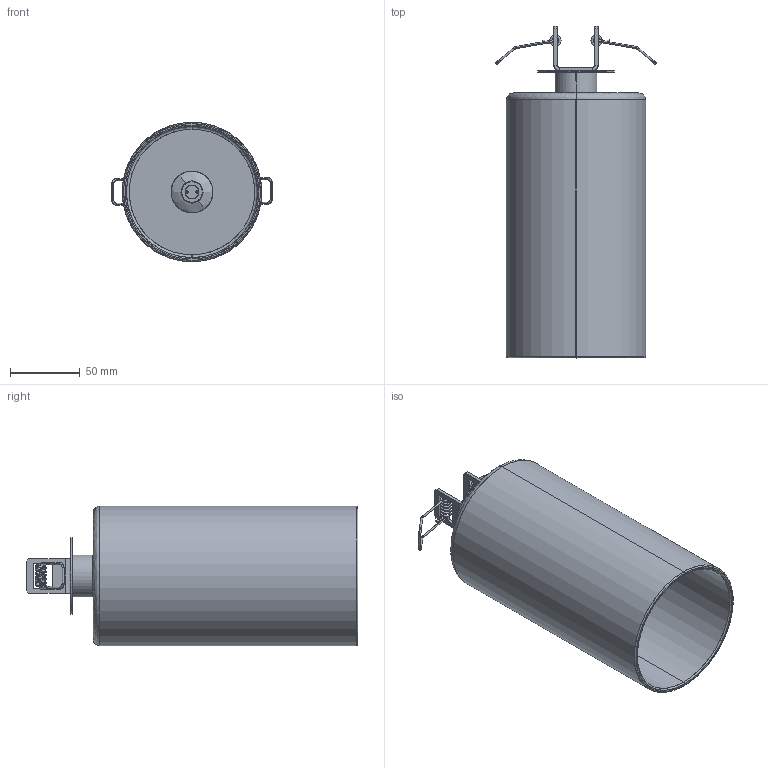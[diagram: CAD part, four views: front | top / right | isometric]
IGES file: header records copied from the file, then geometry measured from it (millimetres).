
Start section: SolidWorks IGES file using analytic representation for surfaces
Global section: file name: \\STORAGE\Tecnico Condiviso\1 FASCICOLI TECNICI\AXO DESIGN\AXO012 SPILLRAY LED INTEGRATO\DISEGNI\PL SPILLRAY\PLSPILIMXXCRINT-PER 3D.IGS; native system: SolidWorks 2024; preprocessor: SolidWorks 2024; author: tecnico3; date: 240527.184341; units: millimetre
Bounding box: 115.15 x 238 x 100 mm (x, y, z)
Surface area: 147358.6 mm2 (no closed solid volume)
Topology: 0 solids, 0 shells, 203 faces, 2250 edges, 2250 vertices
Faces by surface type: bspline 117, revolution 86
